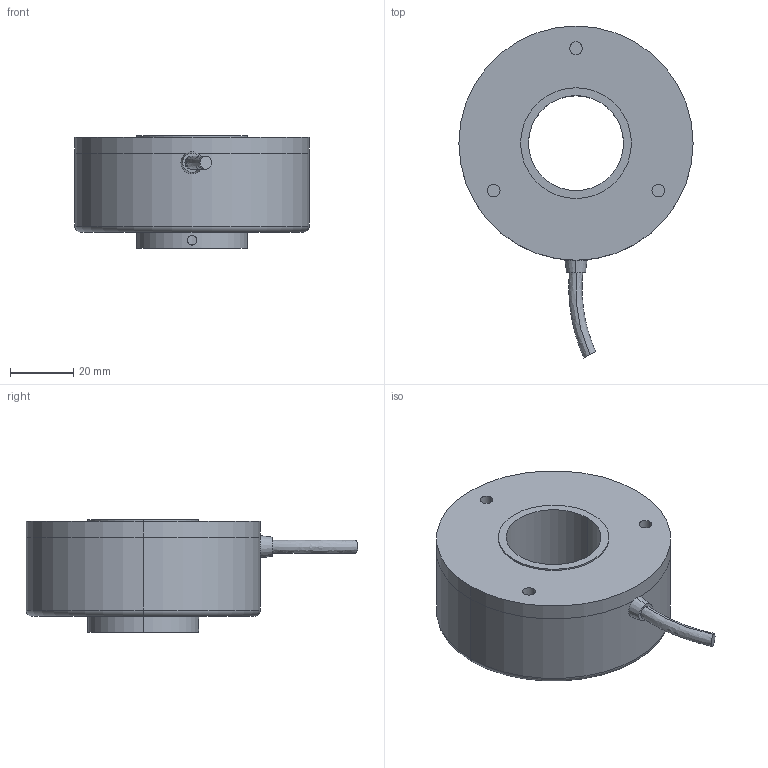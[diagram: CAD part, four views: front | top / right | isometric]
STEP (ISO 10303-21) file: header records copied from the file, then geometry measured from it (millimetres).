
FILE_DESCRIPTION (( 'STEP AP214' ), '1' );
FILE_NAME ('NS_Assem1.STEP', '2024-06-18T01:29:10', ( '' ), ( '' ), 'SwSTEP 2.0', 'SolidWorks 2023', '' );
FILE_SCHEMA (( 'AUTOMOTIVE_DESIGN' ));
Length unit declared in the file: millimetre
Products named in the file (4): NS_Part1; NS_Part2; NS_Part3; NS_Assem1
Assembly tree (3 placements, depth 2):
  NS_Assem1
    NS_Part1
    NS_Part2
    NS_Part3
Bounding box: 74 x 104.87 x 35.5 mm (x, y, z)
Volume: 109112.7 mm3; surface area: 32005 mm2
Topology: 4 solids, 4 shells, 46 faces, 102 edges, 66 vertices
Faces by surface type: cylinder 28, plane 12, bspline 2, cone 2, torus 2
Entity records: 1700 total; most frequent: CARTESIAN_POINT 488, DIRECTION 252, ORIENTED_EDGE 204, AXIS2_PLACEMENT_3D 110, EDGE_CURVE 102, VERTEX_POINT 66, EDGE_LOOP 64, CIRCLE 60
